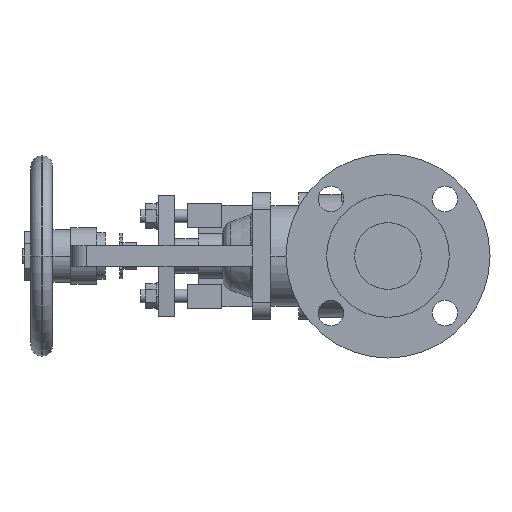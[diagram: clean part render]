
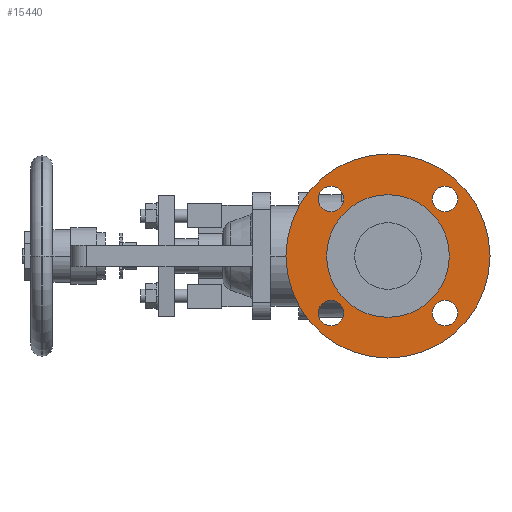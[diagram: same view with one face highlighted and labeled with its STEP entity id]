
A CAD part, left-side view. The second image highlights one B-rep face of the part: STEP entity #15440.
In plain terms, the highlighted planar face has unit normal (-1, 0, 0).
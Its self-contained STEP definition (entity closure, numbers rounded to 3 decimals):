
#3300=CARTESIAN_POINT('',(1.6,0.,-76.5));
#3310=VERTEX_POINT('',#3300);
#3470=CARTESIAN_POINT('',(1.6,0.,76.5));
#3480=VERTEX_POINT('',#3470);
#3510=CARTESIAN_POINT('',(1.6,0.,0.));
#3520=DIRECTION('',(1.,0.,0.));
#3530=DIRECTION('',(0.,0.,-1.));
#3540=AXIS2_PLACEMENT_3D('',#3510,#3520,#3530);
#3550=CIRCLE('',#3540,76.5);
#3560=CARTESIAN_POINT('',(1.6,76.5,0.));
#3570=VERTEX_POINT('',#3560);
#3580=EDGE_CURVE('',#3570,#3480,#3550,.T.);
#3600=EDGE_CURVE('',#3310,#3570,#3550,.T.);
#3830=CARTESIAN_POINT('',(1.6,42.78,
-33.28));
#3840=VERTEX_POINT('',#3830);
#4000=CARTESIAN_POINT('',(1.6,42.78,
-52.28));
#4010=VERTEX_POINT('',#4000);
#4040=CARTESIAN_POINT('',(1.6,42.78,
-42.78));
#4050=DIRECTION('',(-1.,0.,0.));
#4060=DIRECTION('',(0.,0.,-1.));
#4070=AXIS2_PLACEMENT_3D('',#4040,#4050,#4060);
#4080=CIRCLE('',#4070,9.5);
#4090=EDGE_CURVE('',#3840,#4010,#4080,.T.);
#4320=CARTESIAN_POINT('',(1.6,-42.78,
-52.28));
#4330=VERTEX_POINT('',#4320);
#4360=CARTESIAN_POINT('',(1.6,-42.78,
-42.78));
#4370=DIRECTION('',(-1.,0.,0.));
#4380=DIRECTION('',(0.,0.,-1.));
#4390=AXIS2_PLACEMENT_3D('',#4360,#4370,#4380);
#4400=CIRCLE('',#4390,9.5);
#4410=CARTESIAN_POINT('',(1.6,-42.78,
-33.28));
#4420=VERTEX_POINT('',#4410);
#4430=EDGE_CURVE('',#4420,#4330,#4400,.T.);
#4810=CARTESIAN_POINT('',(1.6,42.78,
52.28));
#4820=VERTEX_POINT('',#4810);
#4850=CARTESIAN_POINT('',(1.6,42.78,
42.78));
#4860=DIRECTION('',(-1.,0.,0.));
#4870=DIRECTION('',(0.,0.,-1.));
#4880=AXIS2_PLACEMENT_3D('',#4850,#4860,#4870);
#4890=CIRCLE('',#4880,9.5);
#4900=CARTESIAN_POINT('',(1.6,42.78,
33.28));
#4910=VERTEX_POINT('',#4900);
#4920=EDGE_CURVE('',#4910,#4820,#4890,.T.);
#5300=CARTESIAN_POINT('',(1.6,-42.78,
33.28));
#5310=VERTEX_POINT('',#5300);
#5470=CARTESIAN_POINT('',(1.6,-42.78,
52.28));
#5480=VERTEX_POINT('',#5470);
#5510=CARTESIAN_POINT('',(1.6,-42.78,
42.78));
#5520=DIRECTION('',(-1.,0.,0.));
#5530=DIRECTION('',(0.,0.,-1.));
#5540=AXIS2_PLACEMENT_3D('',#5510,#5520,#5530);
#5550=CIRCLE('',#5540,9.5);
#5560=EDGE_CURVE('',#5310,#5480,#5550,.T.);
#5790=CARTESIAN_POINT('',(1.6,46.,0.));
#5800=VERTEX_POINT('',#5790);
#5960=CARTESIAN_POINT('',(1.6,-46.,0.));
#5970=VERTEX_POINT('',#5960);
#6000=CARTESIAN_POINT('',(1.6,0.,0.));
#6010=DIRECTION('',(-1.,0.,0.));
#6020=DIRECTION('',(0.,1.,0.));
#6030=AXIS2_PLACEMENT_3D('',#6000,#6010,#6020);
#6040=CIRCLE('',#6030,46.);
#6050=EDGE_CURVE('',#5800,#5970,#6040,.T.);
#15080=CARTESIAN_POINT('',(1.6,61.25,0.)
);
#15090=DIRECTION('',(1.,0.,0.));
#15100=DIRECTION('',(0.,-1.,0.));
#15110=AXIS2_PLACEMENT_3D('',#15080,#15090,#15100);
#15120=PLANE('',#15110);
#15130=EDGE_CURVE('',#5970,#5800,#6040,.T.);
#15140=ORIENTED_EDGE('',*,*,#15130,.F.);
#15150=ORIENTED_EDGE('',*,*,#6050,.F.);
#15160=EDGE_LOOP('',(#15150,#15140));
#15170=FACE_BOUND('',#15160,.T.);
#15180=ORIENTED_EDGE('',*,*,#3580,.F.);
#15190=EDGE_CURVE('',#3480,#3310,#3550,.T.);
#15200=ORIENTED_EDGE('',*,*,#15190,.F.);
#15210=ORIENTED_EDGE('',*,*,#3600,.F.);
#15220=EDGE_LOOP('',(#15210,#15200,#15180));
#15230=FACE_OUTER_BOUND('',#15220,.T.);
#15240=EDGE_CURVE('',#4010,#3840,#4080,.T.);
#15250=ORIENTED_EDGE('',*,*,#15240,.F.);
#15260=ORIENTED_EDGE('',*,*,#4090,.F.);
#15270=EDGE_LOOP('',(#15260,#15250));
#15280=FACE_BOUND('',#15270,.T.);
#15290=ORIENTED_EDGE('',*,*,#4430,.F.);
#15300=EDGE_CURVE('',#4330,#4420,#4400,.T.);
#15310=ORIENTED_EDGE('',*,*,#15300,.F.);
#15320=EDGE_LOOP('',(#15310,#15290));
#15330=FACE_BOUND('',#15320,.T.);
#15340=EDGE_CURVE('',#4820,#4910,#4890,.T.);
#15350=ORIENTED_EDGE('',*,*,#15340,.F.);
#15360=ORIENTED_EDGE('',*,*,#4920,.F.);
#15370=EDGE_LOOP('',(#15360,#15350));
#15380=FACE_BOUND('',#15370,.T.);
#15390=EDGE_CURVE('',#5480,#5310,#5550,.T.);
#15400=ORIENTED_EDGE('',*,*,#15390,.F.);
#15410=ORIENTED_EDGE('',*,*,#5560,.F.);
#15420=EDGE_LOOP('',(#15410,#15400));
#15430=FACE_BOUND('',#15420,.T.);
#15440=ADVANCED_FACE('',(#15170,#15230,#15280,#15330,#15380,#15430),
#15120,.F.);
